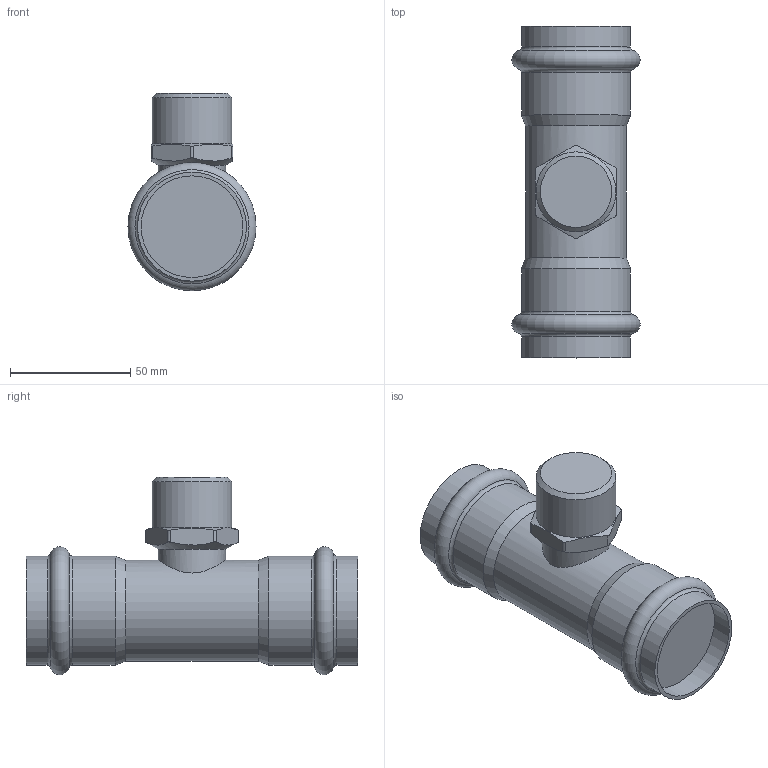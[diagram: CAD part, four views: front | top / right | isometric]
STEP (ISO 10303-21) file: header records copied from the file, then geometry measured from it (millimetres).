
FILE_DESCRIPTION(('STEP AP203'), '1');
FILE_NAME('VTi.933.I.420642', '', ('UNSPECIFIED'), ('UNSPECIFIED'), 'C3D Converter', 'C3D Toolkit', '');
FILE_SCHEMA(('CONFIG_CONTROL_DESIGN'));
Length unit declared in the file: millimetre
Bounding box: 53.29 x 138 x 82.15 mm (x, y, z)
Volume: 222440.3 mm3; surface area: 30320.3 mm2
Topology: 1 solids, 1 shells, 37 faces, 85 edges, 52 vertices
Faces by surface type: cylinder 15, plane 11, torus 6, cone 5
Full cylindrical faces by diameter (mm): 28 x1, 33.249 x1, 42 x1, 42.3 x2, 45.3 x4
Entity records: 2054 total; most frequent: CARTESIAN_POINT 1301, DIRECTION 134, ORIENTED_EDGE 128, EDGE_CURVE 64, AXIS2_PLACEMENT_3D 61, EDGE_LOOP 60, VERTEX_POINT 52, ADVANCED_FACE 37
